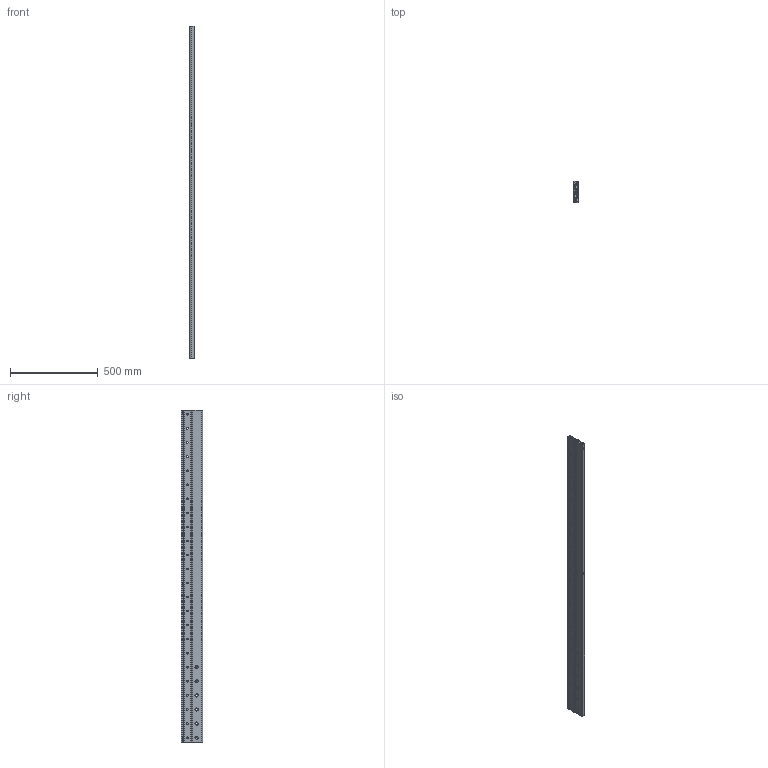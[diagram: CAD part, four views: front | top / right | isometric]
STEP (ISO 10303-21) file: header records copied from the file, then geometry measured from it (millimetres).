
FILE_DESCRIPTION(('STEP AP214'),'1');
FILE_NAME('rail_dss43-1890_00.stp','2017-04-17T03:58:53',('TraceParts'),('TraceParts S.A.'),'Spatial InterOp 3D',' ',' ');
FILE_SCHEMA(('automotive_design'));
Length unit declared in the file: millimetre
Products named in the file (3): rail_dss43-1890_00_1; rail_dss43-1890_00_2; rail_dss43-1890_00_3
Bounding box: 28 x 120 x 1890 mm (x, y, z)
Volume: 3348916.8 mm3; surface area: 1346945 mm2
Topology: 3 solids, 3 shells, 406 faces, 1074 edges, 684 vertices
Faces by surface type: cylinder 172, plane 138, cone 96
Entity records: 12911 total; most frequent: DIRECTION 2348, CARTESIAN_POINT 2167, ORIENTED_EDGE 2148, EDGE_CURVE 1074, AXIS2_PLACEMENT_3D 865, VERTEX_POINT 684, LINE 618, VECTOR 618
